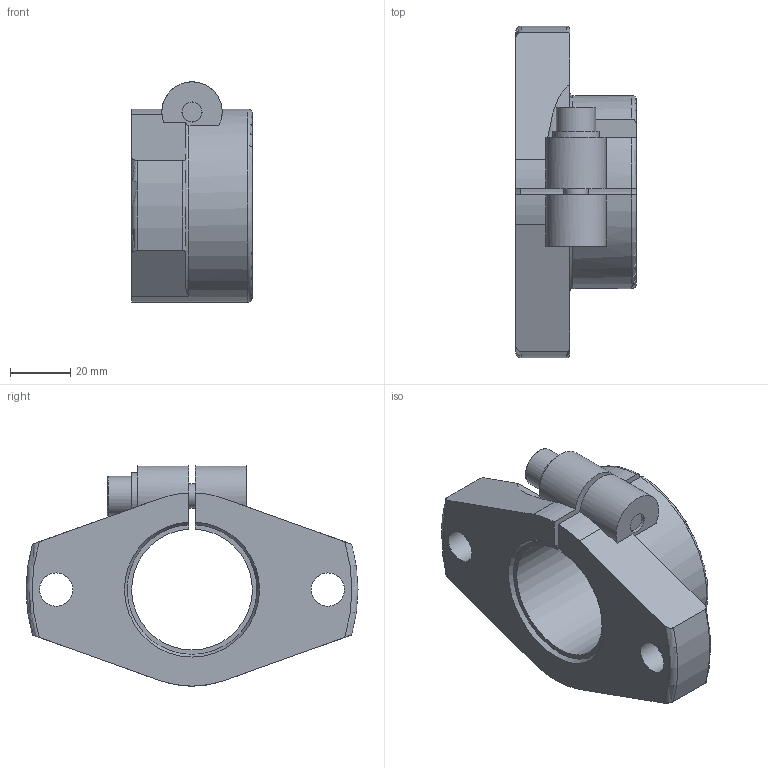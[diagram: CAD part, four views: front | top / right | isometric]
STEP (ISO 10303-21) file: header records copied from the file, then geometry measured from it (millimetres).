
FILE_DESCRIPTION((''),'2;1');
FILE_NAME('D:\製品 (図面)\カタログ用3D\シャフトブロック関連\STEP形式\SF\SF40.stp','2010-06-01T16:26:40',('Tsuchiya'),(''),'Autodesk Inventor 10','Autodesk Inventor 10','');
FILE_SCHEMA(('AUTOMOTIVE_DESIGN { 1 0 10303 214 1 1 1 1 }'));
Length unit declared in the file: millimetre
Products named in the file (1): SF40
Bounding box: 40 x 110 x 73 mm (x, y, z)
Volume: 115960.4 mm3; surface area: 26351 mm2
Topology: 1 solids, 1 shells, 55 faces, 149 edges, 100 vertices
Faces by surface type: plane 25, cylinder 15, torus 7, cone 4, bspline 4
Full cylindrical faces by diameter (mm): 8 x1, 11 x2, 13 x1, 15.4 x1
Entity records: 2043 total; most frequent: CARTESIAN_POINT 744, ORIENTED_EDGE 264, DIRECTION 253, EDGE_CURVE 132, AXIS2_PLACEMENT_3D 101, VERTEX_POINT 93, EDGE_LOOP 75, FACE_OUTER_BOUND 55
